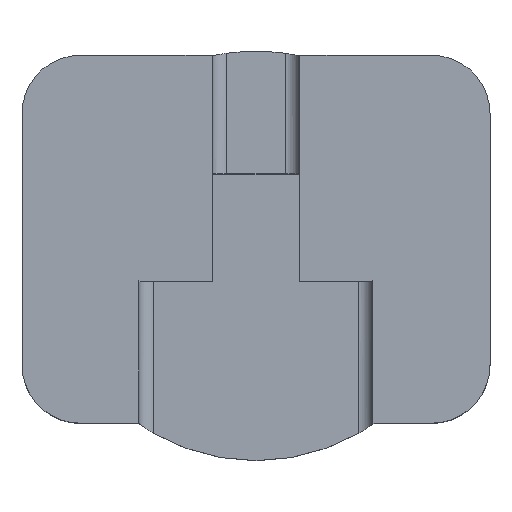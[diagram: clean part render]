
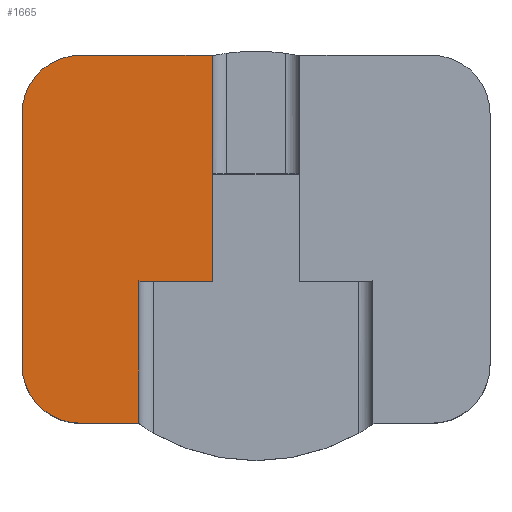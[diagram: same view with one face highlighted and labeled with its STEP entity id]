
A CAD part, top view. The second image highlights one B-rep face of the part: STEP entity #1665.
In plain terms, the highlighted planar face has unit normal (0, 0, 1).
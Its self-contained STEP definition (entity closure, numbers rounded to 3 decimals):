
#35 = DIRECTION ( 'NONE',  ( 0., 0., 1. ) ) ;
#43 = CARTESIAN_POINT ( 'NONE',  ( -6., -5.745, 38. ) ) ;
#61 = ORIENTED_EDGE ( 'NONE', *, *, #1893, .T. ) ;
#131 = ORIENTED_EDGE ( 'NONE', *, *, #1565, .T. ) ;
#136 = ORIENTED_EDGE ( 'NONE', *, *, #687, .T. ) ;
#139 = VERTEX_POINT ( 'NONE', #2253 ) ;
#213 = ORIENTED_EDGE ( 'NONE', *, *, #809, .F. ) ;
#264 = AXIS2_PLACEMENT_3D ( 'NONE', #1599, #1818, #2347 ) ;
#277 = DIRECTION ( 'NONE',  ( 1., 0., 0. ) ) ;
#280 = VERTEX_POINT ( 'NONE', #43 ) ;
#322 = DIRECTION ( 'NONE',  ( -1., 0., 0. ) ) ;
#352 = DIRECTION ( 'NONE',  ( -1., 0., 0. ) ) ;
#367 = ORIENTED_EDGE ( 'NONE', *, *, #1911, .T. ) ;
#401 = DIRECTION ( 'NONE',  ( 1., 0., 0. ) ) ;
#419 = DIRECTION ( 'NONE',  ( 0., 0., 1. ) ) ;
#447 = ORIENTED_EDGE ( 'NONE', *, *, #776, .T. ) ;
#486 = CARTESIAN_POINT ( 'NONE',  ( -4., -0.9, 38. ) ) ;
#531 = ORIENTED_EDGE ( 'NONE', *, *, #591, .T. ) ;
#569 = CARTESIAN_POINT ( 'NONE',  ( -1.5, 6.837, 38. ) ) ;
#591 = EDGE_CURVE ( 'NONE', #1617, #280, #1238, .T. ) ;
#684 = AXIS2_PLACEMENT_3D ( 'NONE', #1179, #419, #1751 ) ;
#687 = EDGE_CURVE ( 'NONE', #139, #774, #1446, .T. ) ;
#737 = LINE ( 'NONE', #901, #1050 ) ;
#774 = VERTEX_POINT ( 'NONE', #1506 ) ;
#776 = EDGE_CURVE ( 'NONE', #2143, #139, #737, .T. ) ;
#809 = EDGE_CURVE ( 'NONE', #1944, #280, #2035, .T. ) ;
#901 = CARTESIAN_POINT ( 'NONE',  ( 0., 6.837, 38. ) ) ;
#986 = CARTESIAN_POINT ( 'NONE',  ( 0., 0., 38. ) ) ;
#991 = EDGE_CURVE ( 'NONE', #1552, #2021, #1968, .T. ) ;
#1031 = VECTOR ( 'NONE', #2022, 1000. ) ;
#1050 = VECTOR ( 'NONE', #322, 1000. ) ;
#1061 = CARTESIAN_POINT ( 'NONE',  ( 0., -5.745, 38. ) ) ;
#1068 = CARTESIAN_POINT ( 'NONE',  ( -4., -5.745, 38. ) ) ;
#1134 = CARTESIAN_POINT ( 'NONE',  ( -8., -3.745, 38. ) ) ;
#1179 = CARTESIAN_POINT ( 'NONE',  ( -6., -3.745, 38. ) ) ;
#1219 = LINE ( 'NONE', #1619, #1760 ) ;
#1238 = CIRCLE ( 'NONE', #684, 2. ) ;
#1293 = LINE ( 'NONE', #1674, #1031 ) ;
#1375 = VECTOR ( 'NONE', #1562, 1000. ) ;
#1446 = CIRCLE ( 'NONE', #264, 2. ) ;
#1506 = CARTESIAN_POINT ( 'NONE',  ( -8., 4.837, 38. ) ) ;
#1546 = FACE_OUTER_BOUND ( 'NONE', #2328, .T. ) ;
#1551 = LINE ( 'NONE', #2291, #1375 ) ;
#1552 = VERTEX_POINT ( 'NONE', #1766 ) ;
#1562 = DIRECTION ( 'NONE',  ( 0., 1., 0. ) ) ;
#1565 = EDGE_CURVE ( 'NONE', #2021, #2143, #1551, .T. ) ;
#1599 = CARTESIAN_POINT ( 'NONE',  ( -6., 4.837, 38. ) ) ;
#1617 = VERTEX_POINT ( 'NONE', #1134 ) ;
#1619 = CARTESIAN_POINT ( 'NONE',  ( -4., -5.745, 38. ) ) ;
#1665 = ADVANCED_FACE ( 'NONE', ( #1546 ), #1943, .T. ) ;
#1674 = CARTESIAN_POINT ( 'NONE',  ( -8., 0., 38. ) ) ;
#1751 = DIRECTION ( 'NONE',  ( 1., 0., 0. ) ) ;
#1760 = VECTOR ( 'NONE', #2354, 1000. ) ;
#1766 = CARTESIAN_POINT ( 'NONE',  ( -4., -0.9, 38. ) ) ;
#1818 = DIRECTION ( 'NONE',  ( 0., 0., 1. ) ) ;
#1893 = EDGE_CURVE ( 'NONE', #1944, #1552, #1219, .T. ) ;
#1911 = EDGE_CURVE ( 'NONE', #774, #1617, #1293, .T. ) ;
#1934 = VECTOR ( 'NONE', #277, 1000. ) ;
#1943 = PLANE ( 'NONE',  #2365 ) ;
#1944 = VERTEX_POINT ( 'NONE', #1068 ) ;
#1968 = LINE ( 'NONE', #486, #1934 ) ;
#2021 = VERTEX_POINT ( 'NONE', #2032 ) ;
#2022 = DIRECTION ( 'NONE',  ( 0., -1., 0. ) ) ;
#2032 = CARTESIAN_POINT ( 'NONE',  ( -1.5, -0.9, 38. ) ) ;
#2035 = LINE ( 'NONE', #1061, #2431 ) ;
#2099 = ORIENTED_EDGE ( 'NONE', *, *, #991, .T. ) ;
#2143 = VERTEX_POINT ( 'NONE', #569 ) ;
#2253 = CARTESIAN_POINT ( 'NONE',  ( -6., 6.837, 38. ) ) ;
#2291 = CARTESIAN_POINT ( 'NONE',  ( -1.5, -2.7, 38. ) ) ;
#2328 = EDGE_LOOP ( 'NONE', ( #447, #136, #367, #531, #213, #61, #2099, #131 ) ) ;
#2347 = DIRECTION ( 'NONE',  ( 1., 0., 0. ) ) ;
#2354 = DIRECTION ( 'NONE',  ( 0., 1., 0. ) ) ;
#2365 = AXIS2_PLACEMENT_3D ( 'NONE', #986, #35, #401 ) ;
#2431 = VECTOR ( 'NONE', #352, 1000. ) ;
